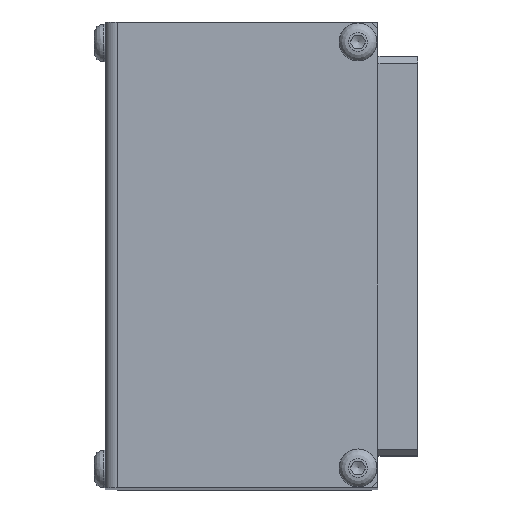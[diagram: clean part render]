
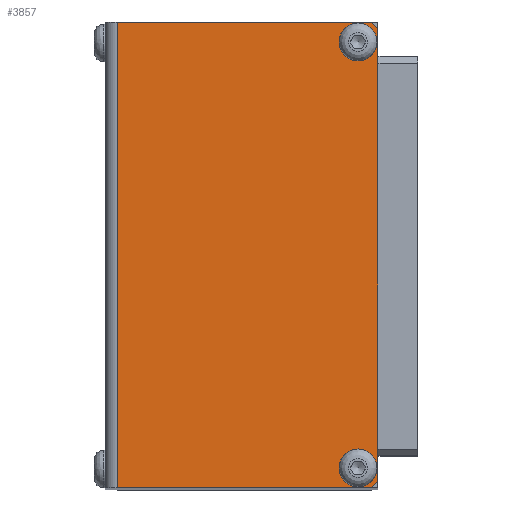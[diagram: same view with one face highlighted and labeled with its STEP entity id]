
A CAD part, top view. The second image highlights one B-rep face of the part: STEP entity #3857.
In plain terms, the highlighted planar face has unit normal (0, 0, 1).
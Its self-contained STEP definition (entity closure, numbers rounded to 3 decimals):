
#126=LINE('',#5771,#372);
#239=LINE('',#6312,#485);
#241=LINE('',#6316,#487);
#250=LINE('',#6335,#496);
#256=LINE('',#6350,#502);
#257=LINE('',#6351,#503);
#372=VECTOR('',#4714,68.);
#485=VECTOR('',#5133,1.414);
#487=VECTOR('',#5137,1.414);
#496=VECTOR('',#5154,70.);
#502=VECTOR('',#5174,38.2);
#503=VECTOR('',#5175,38.2);
#686=PLANE('',#4249);
#806=FACE_BOUND('',#1320,.T.);
#807=FACE_BOUND('',#1321,.T.);
#1004=FACE_OUTER_BOUND('',#1319,.T.);
#1319=EDGE_LOOP('',(#3119,#3120,#3121,#3122,#3123,#3124));
#1320=EDGE_LOOP('',(#3125));
#1321=EDGE_LOOP('',(#3126));
#1519=CIRCLE('',#4106,2.85);
#1567=CIRCLE('',#4250,2.85);
#1729=VERTEX_POINT('',#5768);
#1730=VERTEX_POINT('',#5770);
#1753=VERTEX_POINT('',#5855);
#1861=VERTEX_POINT('',#6311);
#1862=VERTEX_POINT('',#6315);
#1867=VERTEX_POINT('',#6333);
#1868=VERTEX_POINT('',#6334);
#1871=VERTEX_POINT('',#6352);
#2097=EDGE_CURVE('',#1729,#1730,#126,.T.);
#2128=EDGE_CURVE('',#1753,#1753,#1519,.T.);
#2294=EDGE_CURVE('',#1730,#1861,#239,.T.);
#2296=EDGE_CURVE('',#1862,#1729,#241,.T.);
#2305=EDGE_CURVE('',#1867,#1868,#250,.T.);
#2315=EDGE_CURVE('',#1867,#1862,#256,.T.);
#2316=EDGE_CURVE('',#1861,#1868,#257,.T.);
#2317=EDGE_CURVE('',#1871,#1871,#1567,.T.);
#3119=ORIENTED_EDGE('',*,*,#2294,.F.);
#3120=ORIENTED_EDGE('',*,*,#2097,.F.);
#3121=ORIENTED_EDGE('',*,*,#2296,.F.);
#3122=ORIENTED_EDGE('',*,*,#2315,.F.);
#3123=ORIENTED_EDGE('',*,*,#2305,.T.);
#3124=ORIENTED_EDGE('',*,*,#2316,.F.);
#3125=ORIENTED_EDGE('',*,*,#2317,.T.);
#3126=ORIENTED_EDGE('',*,*,#2128,.T.);
#3857=ADVANCED_FACE('',(#1004,#806,#807),#686,.T.);
#4106=AXIS2_PLACEMENT_3D('',#5856,#4767,#4768);
#4249=AXIS2_PLACEMENT_3D('',#6349,#5172,#5173);
#4250=AXIS2_PLACEMENT_3D('',#6353,#5176,#5177);
#4714=DIRECTION('',(0.,-1.,0.));
#4767=DIRECTION('center_axis',(0.,0.,
-1.));
#4768=DIRECTION('ref_axis',(0.,1.,0.));
#5133=DIRECTION('',(-0.707,-0.707,0.));
#5137=DIRECTION('',(0.707,-0.707,0.));
#5154=DIRECTION('',(0.,-1.,0.));
#5172=DIRECTION('center_axis',(0.,0.,
1.));
#5173=DIRECTION('ref_axis',(1.,0.,0.));
#5174=DIRECTION('',(1.,0.,0.));
#5175=DIRECTION('',(-1.,0.,0.));
#5176=DIRECTION('center_axis',(0.,0.,
-1.));
#5177=DIRECTION('ref_axis',(0.,1.,0.));
#5768=CARTESIAN_POINT('',(41.,69.,179.));
#5770=CARTESIAN_POINT('',(41.,1.,179.));
#5771=CARTESIAN_POINT('',(41.,70.,179.));
#5855=CARTESIAN_POINT('',(38.,5.85,179.));
#5856=CARTESIAN_POINT('Origin',(38.,3.,179.));
#6311=CARTESIAN_POINT('',(40.,0.,179.));
#6312=CARTESIAN_POINT('',(44.159,4.159,179.));
#6315=CARTESIAN_POINT('',(40.,70.,179.));
#6316=CARTESIAN_POINT('',(44.159,65.841,179.));
#6333=CARTESIAN_POINT('',(1.8,70.,179.));
#6334=CARTESIAN_POINT('',(1.8,0.,179.));
#6335=CARTESIAN_POINT('',(1.8,35.,179.));
#6349=CARTESIAN_POINT('Origin',(20.635,35.,179.));
#6350=CARTESIAN_POINT('',(1.8,70.,179.));
#6351=CARTESIAN_POINT('',(-1.259,0.,179.));
#6352=CARTESIAN_POINT('',(38.,69.85,179.));
#6353=CARTESIAN_POINT('Origin',(38.,67.,179.));
